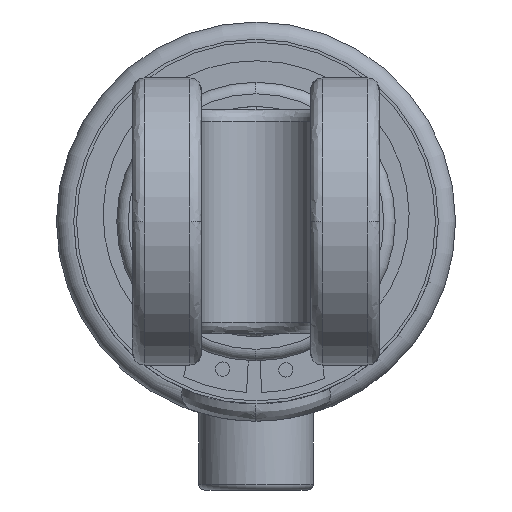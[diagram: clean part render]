
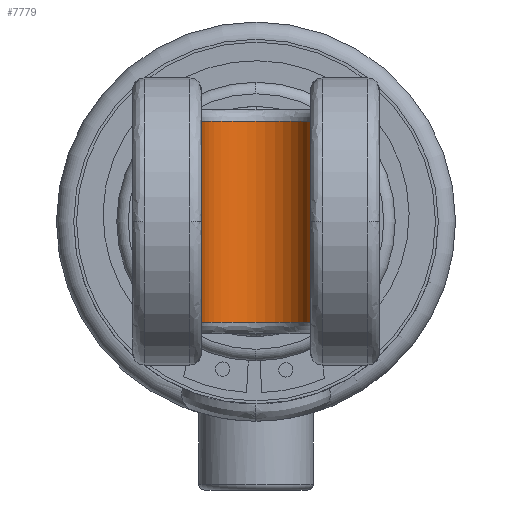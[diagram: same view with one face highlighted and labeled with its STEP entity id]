
A CAD part, left-side view. The second image highlights one B-rep face of the part: STEP entity #7779.
In plain terms, the highlighted cylindrical face has radius 9.5 mm (diameter 19 mm), a partial arc.
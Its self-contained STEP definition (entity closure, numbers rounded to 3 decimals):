
#1128 = DIRECTION ( 'NONE',  ( 0., 0., 1. ) ) ;
#1230 = VERTEX_POINT ( 'NONE', #7996 ) ;
#1887 = CARTESIAN_POINT ( 'NONE',  ( 0.293, -17.446, 17.5 ) ) ;
#3125 = CARTESIAN_POINT ( 'NONE',  ( 0.293, 1.554, 17.5 ) ) ;
#3246 = EDGE_CURVE ( 'NONE', #13529, #1230, #11307, .T. ) ;
#3861 = EDGE_LOOP ( 'NONE', ( #7035, #21049, #22501, #18242 ) ) ;
#3937 = AXIS2_PLACEMENT_3D ( 'NONE', #8675, #22075, #10597 ) ;
#5544 = AXIS2_PLACEMENT_3D ( 'NONE', #12661, #1128, #14560 ) ;
#5640 = DIRECTION ( 'NONE',  ( 0., 0., 1. ) ) ;
#5724 = EDGE_CURVE ( 'NONE', #10853, #19122, #14229, .T. ) ;
#6056 = DIRECTION ( 'NONE',  ( 0., 0., -1. ) ) ;
#7035 = ORIENTED_EDGE ( 'NONE', *, *, #18668, .F. ) ;
#7043 = FACE_OUTER_BOUND ( 'NONE', #3861, .T. ) ;
#7779 = ADVANCED_FACE ( 'NONE', ( #7043 ), #11523, .F. ) ;
#7996 = CARTESIAN_POINT ( 'NONE',  ( 0.293, -17.446, -17.5 ) ) ;
#8675 = CARTESIAN_POINT ( 'NONE',  ( 0.293, -7.946, 17.5 ) ) ;
#10597 = DIRECTION ( 'NONE',  ( 1., 0., 0. ) ) ;
#10853 = VERTEX_POINT ( 'NONE', #1887 ) ;
#11112 = CARTESIAN_POINT ( 'NONE',  ( 0.293, -17.446, -19.5 ) ) ;
#11307 = CIRCLE ( 'NONE', #5544, 9.5 ) ;
#11523 = CYLINDRICAL_SURFACE ( 'NONE', #22178, 9.5 ) ;
#12331 = VECTOR ( 'NONE', #6056, 1000. ) ;
#12661 = CARTESIAN_POINT ( 'NONE',  ( 0.293, -7.946, -17.5 ) ) ;
#12867 = CARTESIAN_POINT ( 'NONE',  ( 0.293, -7.946, -19.5 ) ) ;
#13026 = DIRECTION ( 'NONE',  ( 0., 0., 1. ) ) ;
#13469 = CARTESIAN_POINT ( 'NONE',  ( 0.293, 1.554, -17.5 ) ) ;
#13529 = VERTEX_POINT ( 'NONE', #13469 ) ;
#14229 = CIRCLE ( 'NONE', #3937, 9.5 ) ;
#14560 = DIRECTION ( 'NONE',  ( 1., 0., 0. ) ) ;
#14687 = EDGE_CURVE ( 'NONE', #19122, #13529, #22552, .T. ) ;
#14847 = DIRECTION ( 'NONE',  ( 1., 0., 0. ) ) ;
#18242 = ORIENTED_EDGE ( 'NONE', *, *, #5724, .F. ) ;
#18668 = EDGE_CURVE ( 'NONE', #1230, #10853, #19636, .T. ) ;
#19122 = VERTEX_POINT ( 'NONE', #3125 ) ;
#19636 = LINE ( 'NONE', #11112, #24193 ) ;
#21049 = ORIENTED_EDGE ( 'NONE', *, *, #3246, .F. ) ;
#22075 = DIRECTION ( 'NONE',  ( 0., 0., -1. ) ) ;
#22178 = AXIS2_PLACEMENT_3D ( 'NONE', #12867, #5640, #14847 ) ;
#22501 = ORIENTED_EDGE ( 'NONE', *, *, #14687, .F. ) ;
#22552 = LINE ( 'NONE', #23324, #12331 ) ;
#23324 = CARTESIAN_POINT ( 'NONE',  ( 0.293, 1.554, -19.5 ) ) ;
#24193 = VECTOR ( 'NONE', #13026, 1000. ) ;
